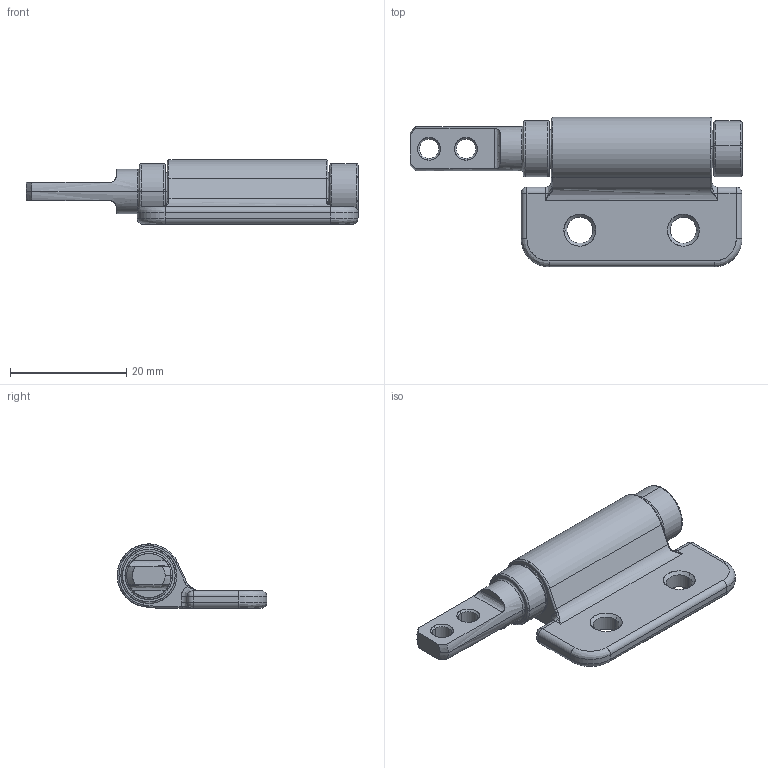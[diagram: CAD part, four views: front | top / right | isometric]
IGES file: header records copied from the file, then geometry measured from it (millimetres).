
Start section: SolidWorks IGES file using analytic representation for surfaces
Global section: file name: G:\RELEASED\84600\84657-0XX PHB Hinge, Left\Reell PHB-X.XX-01-01-XX.IGS; native system: SolidWorks 2017; preprocessor: SolidWorks 2017; author: hmanderson; date: 181030.123220; units: millimetre
Bounding box: 57.14 x 25.75 x 11.05 mm (x, y, z)
Surface area: 3947.9 mm2 (no closed solid volume)
Topology: 0 solids, 0 shells, 552 faces, 4800 edges, 4788 vertices
Faces by surface type: bspline 442, revolution 110
